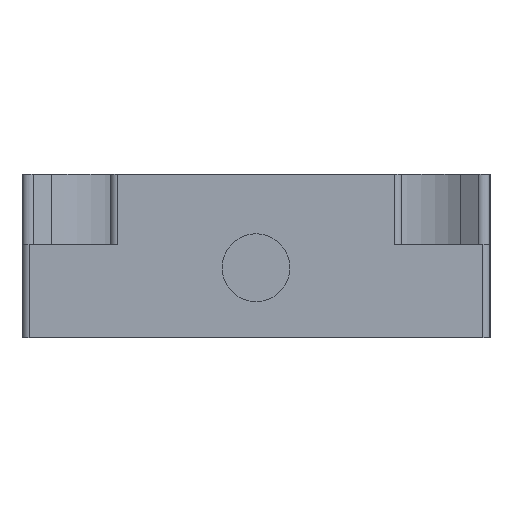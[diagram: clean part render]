
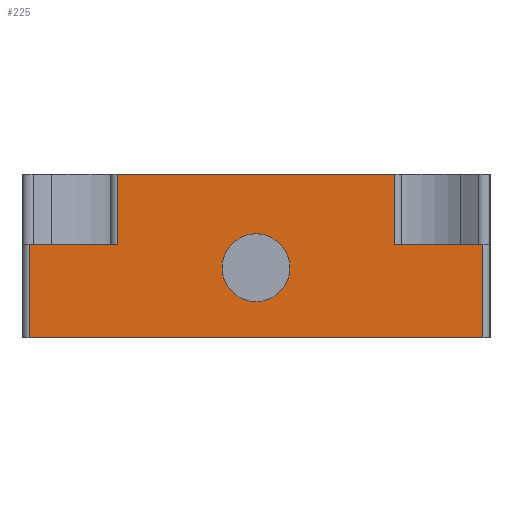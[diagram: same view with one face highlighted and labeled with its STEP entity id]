
A CAD part, left-side view. The second image highlights one B-rep face of the part: STEP entity #225.
In plain terms, the highlighted planar face has unit normal (-1, 0, 0).
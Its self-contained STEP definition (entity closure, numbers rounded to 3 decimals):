
#225 = ADVANCED_FACE( '', ( #549, #550 ), #551, .T. );
#549 = FACE_BOUND( '', #874, .T. );
#550 = FACE_OUTER_BOUND( '', #875, .T. );
#551 = PLANE( '', #876 );
#874 = EDGE_LOOP( '', ( #2114 ) );
#875 = EDGE_LOOP( '', ( #2115, #2116, #2117, #2118, #2119, #2120, #2121, #2122 ) );
#876 = AXIS2_PLACEMENT_3D( '', #2123, #2124, #2125 );
#2114 = ORIENTED_EDGE( '', *, *, #2431, .T. );
#2115 = ORIENTED_EDGE( '', *, *, #2127, .F. );
#2116 = ORIENTED_EDGE( '', *, *, #2177, .T. );
#2117 = ORIENTED_EDGE( '', *, *, #2303, .F. );
#2118 = ORIENTED_EDGE( '', *, *, #2214, .F. );
#2119 = ORIENTED_EDGE( '', *, *, #2172, .F. );
#2120 = ORIENTED_EDGE( '', *, *, #2139, .F. );
#2121 = ORIENTED_EDGE( '', *, *, #2165, .T. );
#2122 = ORIENTED_EDGE( '', *, *, #2523, .T. );
#2123 = CARTESIAN_POINT( '', ( 0., 9.7, -7. ) );
#2124 = DIRECTION( '', ( -1., 0., 0. ) );
#2125 = DIRECTION( '', ( 0., 0., 1. ) );
#2127 = EDGE_CURVE( '', #2524, #2527, #2528, .T. );
#2139 = EDGE_CURVE( '', #2549, #2545, #2551, .T. );
#2165 = EDGE_CURVE( '', #2549, #2601, #2603, .T. );
#2172 = EDGE_CURVE( '', #2545, #2614, #2615, .T. );
#2177 = EDGE_CURVE( '', #2524, #2623, #2624, .T. );
#2214 = EDGE_CURVE( '', #2614, #2685, #2686, .T. );
#2303 = EDGE_CURVE( '', #2685, #2623, #2862, .T. );
#2431 = EDGE_CURVE( '', #3061, #3061, #3062, .T. );
#2523 = EDGE_CURVE( '', #2601, #2527, #3189, .T. );
#2524 = VERTEX_POINT( '', #3190 );
#2527 = VERTEX_POINT( '', #3193 );
#2528 = LINE( '', #3194, #3195 );
#2545 = VERTEX_POINT( '', #3215 );
#2549 = VERTEX_POINT( '', #3220 );
#2551 = LINE( '', #3222, #3223 );
#2601 = VERTEX_POINT( '', #3285 );
#2603 = LINE( '', #3287, #3288 );
#2614 = VERTEX_POINT( '', #3304 );
#2615 = LINE( '', #3305, #3306 );
#2623 = VERTEX_POINT( '', #3316 );
#2624 = LINE( '', #3317, #3318 );
#2685 = VERTEX_POINT( '', #3405 );
#2686 = LINE( '', #3406, #3407 );
#2862 = LINE( '', #3656, #3657 );
#3061 = VERTEX_POINT( '', #3970 );
#3062 = CIRCLE( '', #3971, 1.45 );
#3189 = LINE( '', #4178, #4179 );
#3190 = CARTESIAN_POINT( '', ( 0., -5.925, -3. ) );
#3193 = CARTESIAN_POINT( '', ( 0., -9.7, -3. ) );
#3194 = CARTESIAN_POINT( '', ( 0., 9.7, -3. ) );
#3195 = VECTOR( '', #4183, 1000. );
#3215 = CARTESIAN_POINT( '', ( 0., 9.7, -3. ) );
#3220 = CARTESIAN_POINT( '', ( 0., 9.7, -7. ) );
#3222 = CARTESIAN_POINT( '', ( 0., 9.7, -7. ) );
#3223 = VECTOR( '', #4209, 1000. );
#3285 = CARTESIAN_POINT( '', ( 0., -9.7, -7. ) );
#3287 = CARTESIAN_POINT( '', ( 0., 9.7, -7. ) );
#3288 = VECTOR( '', #4261, 1000. );
#3304 = CARTESIAN_POINT( '', ( 0., 5.925, -3. ) );
#3305 = CARTESIAN_POINT( '', ( 0., 9.7, -3. ) );
#3306 = VECTOR( '', #4270, 1000. );
#3316 = CARTESIAN_POINT( '', ( 0., -5.925, 0. ) );
#3317 = CARTESIAN_POINT( '', ( 0., -5.925, -7. ) );
#3318 = VECTOR( '', #4279, 1000. );
#3405 = CARTESIAN_POINT( '', ( 0., 5.925, 0. ) );
#3406 = CARTESIAN_POINT( '', ( 0., 5.925, -7. ) );
#3407 = VECTOR( '', #4336, 1000. );
#3656 = CARTESIAN_POINT( '', ( 0., 5.925, 0. ) );
#3657 = VECTOR( '', #4455, 1000. );
#3970 = CARTESIAN_POINT( '', ( 0., 0., -5.45 ) );
#3971 = AXIS2_PLACEMENT_3D( '', #4609, #4610, #4611 );
#4178 = CARTESIAN_POINT( '', ( 0., -9.7, -7. ) );
#4179 = VECTOR( '', #4725, 1000. );
#4183 = DIRECTION( '', ( 0., -1., 0. ) );
#4209 = DIRECTION( '', ( 0., 0., 1. ) );
#4261 = DIRECTION( '', ( 0., -1., 0. ) );
#4270 = DIRECTION( '', ( 0., -1., 0. ) );
#4279 = DIRECTION( '', ( 0., 0., 1. ) );
#4336 = DIRECTION( '', ( 0., 0., 1. ) );
#4455 = DIRECTION( '', ( 0., -1., 0. ) );
#4609 = CARTESIAN_POINT( '', ( 0., 0., -4. ) );
#4610 = DIRECTION( '', ( 1., 0., 0. ) );
#4611 = DIRECTION( '', ( 0., 0., -1. ) );
#4725 = DIRECTION( '', ( 0., 0., 1. ) );
